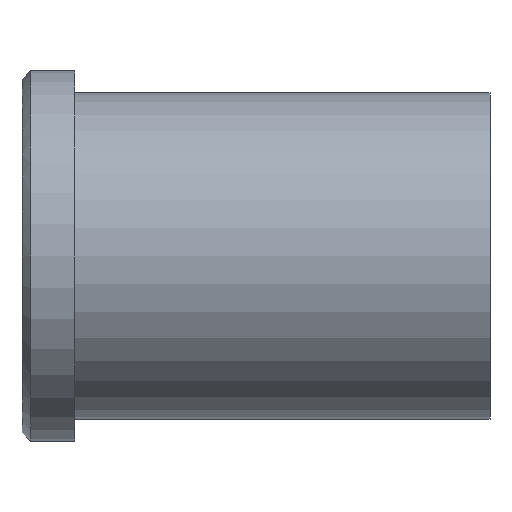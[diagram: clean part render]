
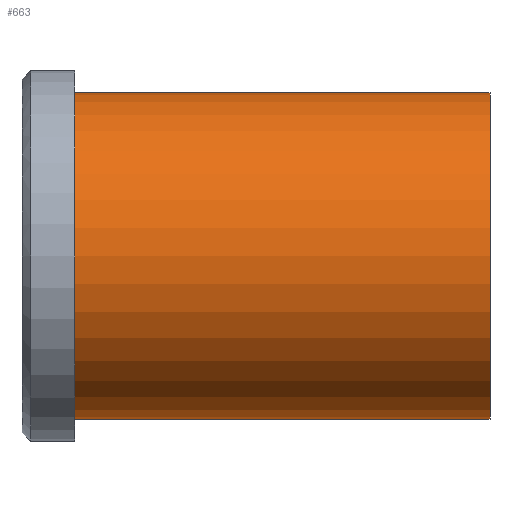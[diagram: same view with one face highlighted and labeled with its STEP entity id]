
A CAD part, front view. The second image highlights one B-rep face of the part: STEP entity #663.
In plain terms, the highlighted cylindrical face has radius 37 mm (diameter 74 mm), a partial arc.
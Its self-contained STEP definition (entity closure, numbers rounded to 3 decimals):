
#501=CARTESIAN_POINT('Vertex',(0.,0.,-37.)) ;
#506=CARTESIAN_POINT('Axis2P3D Location',(0.,0.,0.)) ;
#510=CARTESIAN_POINT('Vertex',(0.,-37.,0.)) ;
#513=CARTESIAN_POINT('Axis2P3D Location',(0.,0.,0.)) ;
#517=CARTESIAN_POINT('Vertex',(0.,0.,37.)) ;
#603=CARTESIAN_POINT('Line Origine',(94.,0.,37.)) ;
#607=CARTESIAN_POINT('Vertex',(94.,0.,37.)) ;
#621=CARTESIAN_POINT('Vertex',(94.,0.,-37.)) ;
#624=CARTESIAN_POINT('Line Origine',(94.,0.,-37.)) ;
#638=CARTESIAN_POINT('Axis2P3D Location',(94.,0.,0.)) ;
#643=CARTESIAN_POINT('Axis2P3D Location',(94.,0.,0.)) ;
#647=CARTESIAN_POINT('Vertex',(94.,-37.,0.)) ;
#650=CARTESIAN_POINT('Axis2P3D Location',(94.,0.,0.)) ;
#507=DIRECTION('Axis2P3D Direction',(1.,0.,-0.)) ;
#514=DIRECTION('Axis2P3D Direction',(1.,0.,-0.)) ;
#604=DIRECTION('Vector Direction',(-1.,0.,0.)) ;
#625=DIRECTION('Vector Direction',(-1.,0.,0.)) ;
#639=DIRECTION('Axis2P3D Direction',(-1.,-0.,-0.)) ;
#640=DIRECTION('Axis2P3D XDirection',(0.,0.,-1.)) ;
#644=DIRECTION('Axis2P3D Direction',(-1.,-0.,-0.)) ;
#651=DIRECTION('Axis2P3D Direction',(-1.,-0.,-0.)) ;
#508=AXIS2_PLACEMENT_3D('Circle Axis2P3D',#506,#507,$) ;
#515=AXIS2_PLACEMENT_3D('Circle Axis2P3D',#513,#514,$) ;
#641=AXIS2_PLACEMENT_3D('Cylinder Axis2P3D',#638,#639,#640) ;
#645=AXIS2_PLACEMENT_3D('Circle Axis2P3D',#643,#644,$) ;
#652=AXIS2_PLACEMENT_3D('Circle Axis2P3D',#650,#651,$) ;
#656=ORIENTED_EDGE('',*,*,#628,.T.) ;
#657=ORIENTED_EDGE('',*,*,#649,.F.) ;
#658=ORIENTED_EDGE('',*,*,#654,.F.) ;
#659=ORIENTED_EDGE('',*,*,#609,.T.) ;
#660=ORIENTED_EDGE('',*,*,#519,.T.) ;
#661=ORIENTED_EDGE('',*,*,#512,.T.) ;
#605=VECTOR('Line Direction',#604,1.) ;
#626=VECTOR('Line Direction',#625,1.) ;
#663=ADVANCED_FACE('353-60x106',(#662),#642,.T.) ;
#509=CIRCLE('generated circle',#508,37.) ;
#516=CIRCLE('generated circle',#515,37.) ;
#646=CIRCLE('generated circle',#645,37.) ;
#653=CIRCLE('generated circle',#652,37.) ;
#642=CYLINDRICAL_SURFACE('generated cylinder',#641,37.) ;
#512=EDGE_CURVE('',#511,#502,#509,.T.) ;
#519=EDGE_CURVE('',#518,#511,#516,.T.) ;
#609=EDGE_CURVE('',#608,#518,#606,.T.) ;
#628=EDGE_CURVE('',#502,#622,#627,.F.) ;
#649=EDGE_CURVE('',#648,#622,#646,.F.) ;
#654=EDGE_CURVE('',#608,#648,#653,.F.) ;
#655=EDGE_LOOP('',(#656,#657,#658,#659,#660,#661)) ;
#662=FACE_OUTER_BOUND('',#655,.T.) ;
#606=LINE('Line',#603,#605) ;
#627=LINE('Line',#624,#626) ;
#502=VERTEX_POINT('',#501) ;
#511=VERTEX_POINT('',#510) ;
#518=VERTEX_POINT('',#517) ;
#608=VERTEX_POINT('',#607) ;
#622=VERTEX_POINT('',#621) ;
#648=VERTEX_POINT('',#647) ;
